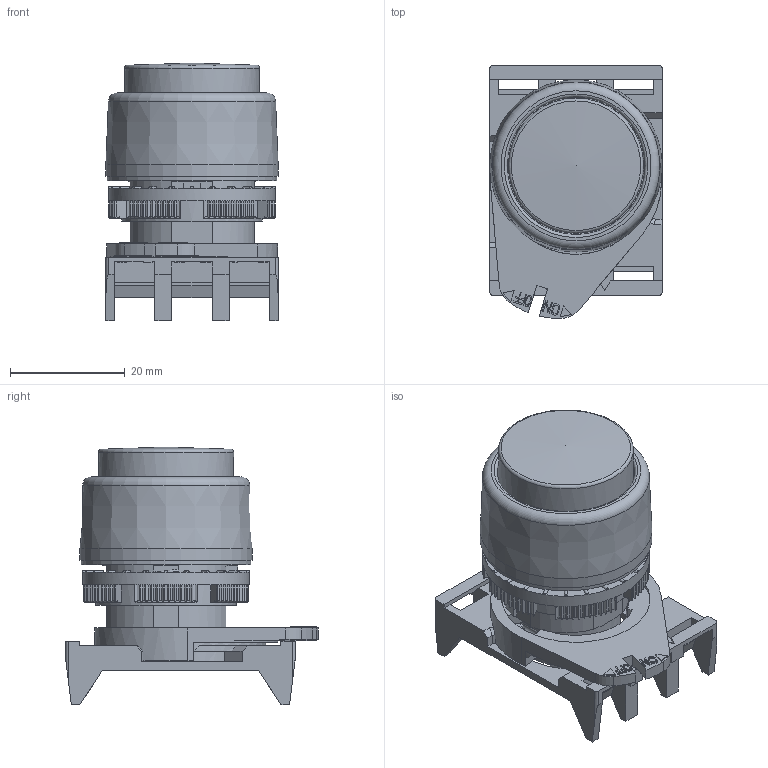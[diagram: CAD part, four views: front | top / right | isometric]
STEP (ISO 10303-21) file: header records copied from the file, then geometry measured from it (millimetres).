
FILE_DESCRIPTION(/* description */ (''),/* implementation_level */ '2;1');
FILE_NAME(/* name */ '4005595.stp',/* time_stamp */ '2019-03-01T19:34:23+01:00',/* author */ (''),/* organization */ (''),/* preprocessor_version */ 'ST-DEVELOPER v16.7',/* originating_system */ 'SIEMENS PLM Software NX 12.0',/* authorisation */ '');
FILE_SCHEMA (('AUTOMOTIVE_DESIGN { 1 0 10303 214 3 1 1 1 }'));
Length unit declared in the file: millimetre
Products named in the file (1): bsom23CC53FBqd73
Bounding box: 30 x 44.04 x 44.89 mm (x, y, z)
Volume: 15311.8 mm3; surface area: 21555.4 mm2
Topology: 9 solids, 9 shells, 11148 faces, 20648 edges, 9530 vertices
Faces by surface type: plane 10390, cylinder 630, torus 84, cone 31, bspline 10, sphere 3
Full cylindrical faces by diameter (mm): 12 x1, 12.5 x1, 13.7 x1, 16 x2, 16.5 x1, 20.6 x1, 21 x1, 22 x2, 22.5 x1, 23.5 x1, 24 x2, 24.5 x1, 25.5 x1, 25.8 x2, 27 x1, 28.2 x1, 29 x1, 29.5 x1, 30 x1
Entity records: 332819 total; most frequent: CARTESIAN_POINT 50226, DIRECTION 43183, ORIENTED_EDGE 41176, EDGE_CURVE 20588, LINE 18069, VECTOR 18069, AXIS2_PLACEMENT_3D 12557, EDGE_LOOP 11236
